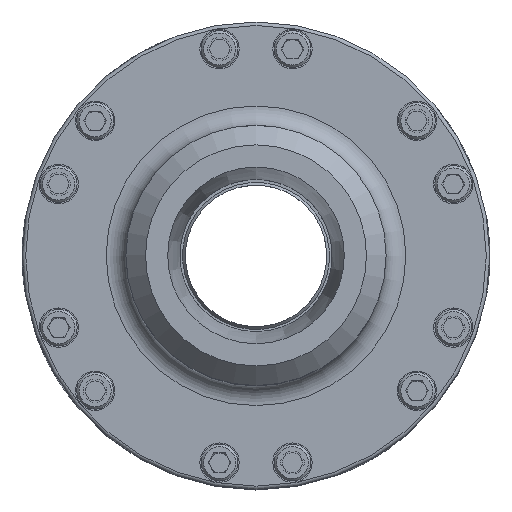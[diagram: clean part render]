
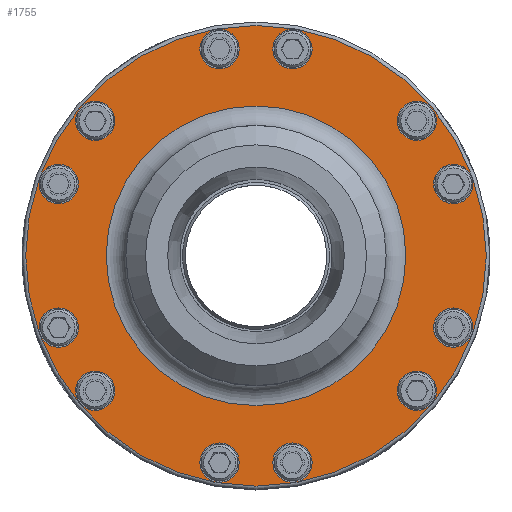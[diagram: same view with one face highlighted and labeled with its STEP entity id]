
A CAD part, top view. The second image highlights one B-rep face of the part: STEP entity #1755.
In plain terms, the highlighted planar face has unit normal (0, 0, 1).
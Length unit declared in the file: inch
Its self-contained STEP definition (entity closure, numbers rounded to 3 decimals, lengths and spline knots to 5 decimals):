
#63 = FACE_BOUND ( 'NONE', #10007, .T. ) ;
#91 = DIRECTION ( 'NONE',  ( 0., -1., 0. ) ) ;
#254 = EDGE_CURVE ( 'NONE', #526, #526, #12032, .T. ) ;
#268 = EDGE_LOOP ( 'NONE', ( #2053 ) ) ;
#382 = FACE_BOUND ( 'NONE', #13236, .T. ) ;
#526 = VERTEX_POINT ( 'NONE', #546 ) ;
#546 = CARTESIAN_POINT ( 'NONE',  ( 0.4639, 2.38091, 2.753 ) ) ;
#572 = DIRECTION ( 'NONE',  ( 0., 0., 1. ) ) ;
#672 = DIRECTION ( 'NONE',  ( 0., 0., 1. ) ) ;
#735 = DIRECTION ( 'NONE',  ( 0., -1., 0. ) ) ;
#801 = CIRCLE ( 'NONE', #2886, 2.93 ) ;
#849 = EDGE_LOOP ( 'NONE', ( #1204 ) ) ;
#852 = CARTESIAN_POINT ( 'NONE',  ( 0., -2.93, 2.753 ) ) ;
#1117 = CIRCLE ( 'NONE', #3226, 0.25 ) ;
#1204 = ORIENTED_EDGE ( 'NONE', *, *, #9022, .F. ) ;
#1471 = VERTEX_POINT ( 'NONE', #2213 ) ;
#1738 = AXIS2_PLACEMENT_3D ( 'NONE', #1772, #9468, #2869 ) ;
#1755 = ADVANCED_FACE ( 'NONE', ( #6213, #11734, #12096, #3327, #382, #8828, #5878, #2959, #63, #11396, #8473, #5548, #2614, #13989 ), #14124, .T. ) ;
#1767 = DIRECTION ( 'NONE',  ( 0., 0., 1. ) ) ;
#1772 = CARTESIAN_POINT ( 'NONE',  ( -2.04649, -1.71721, 2.753 ) ) ;
#1795 = CIRCLE ( 'NONE', #13299, 0.25 ) ;
#1866 = CARTESIAN_POINT ( 'NONE',  ( 2.51039, -1.16371, 2.753 ) ) ;
#1891 = ORIENTED_EDGE ( 'NONE', *, *, #6765, .F. ) ;
#1950 = ORIENTED_EDGE ( 'NONE', *, *, #10876, .F. ) ;
#2053 = ORIENTED_EDGE ( 'NONE', *, *, #9983, .F. ) ;
#2083 = EDGE_LOOP ( 'NONE', ( #8944 ) ) ;
#2213 = CARTESIAN_POINT ( 'NONE',  ( -2.51039, -1.16371, 2.753 ) ) ;
#2271 = CARTESIAN_POINT ( 'NONE',  ( -2.04649, 1.46721, 2.753 ) ) ;
#2320 = AXIS2_PLACEMENT_3D ( 'NONE', #4057, #11775, #5173 ) ;
#2334 = DIRECTION ( 'NONE',  ( 0., 0., -1. ) ) ;
#2418 = EDGE_LOOP ( 'NONE', ( #11815 ) ) ;
#2539 = EDGE_LOOP ( 'NONE', ( #4429 ) ) ;
#2614 = FACE_BOUND ( 'NONE', #9337, .T. ) ;
#2625 = AXIS2_PLACEMENT_3D ( 'NONE', #11536, #4908, #12632 ) ;
#2769 = EDGE_LOOP ( 'NONE', ( #1950 ) ) ;
#2828 = CIRCLE ( 'NONE', #6214, 1.906 ) ;
#2869 = DIRECTION ( 'NONE',  ( 0., -1., 0. ) ) ;
#2886 = AXIS2_PLACEMENT_3D ( 'NONE', #5376, #13115, #6481 ) ;
#2959 = FACE_BOUND ( 'NONE', #13051, .T. ) ;
#2960 = CARTESIAN_POINT ( 'NONE',  ( 2.51039, -0.91371, 2.753 ) ) ;
#3222 = CIRCLE ( 'NONE', #2625, 0.25 ) ;
#3226 = AXIS2_PLACEMENT_3D ( 'NONE', #10624, #4000, #11729 ) ;
#3327 = FACE_BOUND ( 'NONE', #6664, .T. ) ;
#3425 = EDGE_CURVE ( 'NONE', #6107, #6107, #9107, .T. ) ;
#3620 = CIRCLE ( 'NONE', #12281, 0.25 ) ;
#3760 = CARTESIAN_POINT ( 'NONE',  ( -2.51039, -0.91371, 2.753 ) ) ;
#3774 = ORIENTED_EDGE ( 'NONE', *, *, #254, .F. ) ;
#3846 = VERTEX_POINT ( 'NONE', #4246 ) ;
#3930 = CIRCLE ( 'NONE', #6236, 0.25 ) ;
#3994 = CIRCLE ( 'NONE', #1738, 0.25 ) ;
#4000 = DIRECTION ( 'NONE',  ( 0., 0., 1. ) ) ;
#4025 = DIRECTION ( 'NONE',  ( 0., -1., 0. ) ) ;
#4057 = CARTESIAN_POINT ( 'NONE',  ( -2.04649, 1.71721, 2.753 ) ) ;
#4153 = CARTESIAN_POINT ( 'NONE',  ( 0.4639, -2.88091, 2.753 ) ) ;
#4219 = CARTESIAN_POINT ( 'NONE',  ( 2.975, 0., 2.753 ) ) ;
#4246 = CARTESIAN_POINT ( 'NONE',  ( -0.4639, 2.38091, 2.753 ) ) ;
#4305 = CARTESIAN_POINT ( 'NONE',  ( -0.4639, -2.88091, 2.753 ) ) ;
#4350 = CARTESIAN_POINT ( 'NONE',  ( -2.04649, -1.96721, 2.753 ) ) ;
#4429 = ORIENTED_EDGE ( 'NONE', *, *, #3425, .F. ) ;
#4600 = DIRECTION ( 'NONE',  ( 0., 0., 1. ) ) ;
#4604 = EDGE_LOOP ( 'NONE', ( #3774 ) ) ;
#4692 = EDGE_CURVE ( 'NONE', #10604, #10604, #3930, .T. ) ;
#4856 = DIRECTION ( 'NONE',  ( 0., -1., 0. ) ) ;
#4908 = DIRECTION ( 'NONE',  ( 0., 0., 1. ) ) ;
#4911 = AXIS2_PLACEMENT_3D ( 'NONE', #4219, #14172, #7577 ) ;
#5169 = ORIENTED_EDGE ( 'NONE', *, *, #4692, .F. ) ;
#5173 = DIRECTION ( 'NONE',  ( 0., -1., 0. ) ) ;
#5376 = CARTESIAN_POINT ( 'NONE',  ( 0., 0., 2.753 ) ) ;
#5378 = AXIS2_PLACEMENT_3D ( 'NONE', #9541, #8440, #735 ) ;
#5520 = AXIS2_PLACEMENT_3D ( 'NONE', #11226, #4600, #12314 ) ;
#5548 = FACE_BOUND ( 'NONE', #4604, .T. ) ;
#5601 = CIRCLE ( 'NONE', #5520, 0.25 ) ;
#5704 = ORIENTED_EDGE ( 'NONE', *, *, #13978, .F. ) ;
#5878 = FACE_BOUND ( 'NONE', #7582, .T. ) ;
#6107 = VERTEX_POINT ( 'NONE', #6176 ) ;
#6176 = CARTESIAN_POINT ( 'NONE',  ( 2.04649, 1.46721, 2.753 ) ) ;
#6213 = FACE_OUTER_BOUND ( 'NONE', #2083, .T. ) ;
#6214 = AXIS2_PLACEMENT_3D ( 'NONE', #8928, #2334, #10043 ) ;
#6236 = AXIS2_PLACEMENT_3D ( 'NONE', #2960, #10660, #4025 ) ;
#6266 = VERTEX_POINT ( 'NONE', #2271 ) ;
#6470 = EDGE_CURVE ( 'NONE', #11800, #11800, #801, .T. ) ;
#6481 = DIRECTION ( 'NONE',  ( 0., -1., 0. ) ) ;
#6526 = ORIENTED_EDGE ( 'NONE', *, *, #7364, .F. ) ;
#6662 = DIRECTION ( 'NONE',  ( 0., 0., 1. ) ) ;
#6664 = EDGE_LOOP ( 'NONE', ( #1891 ) ) ;
#6765 = EDGE_CURVE ( 'NONE', #8539, #8539, #3222, .T. ) ;
#7171 = CARTESIAN_POINT ( 'NONE',  ( 2.51039, 0.91371, 2.753 ) ) ;
#7258 = CARTESIAN_POINT ( 'NONE',  ( 2.04649, -1.71721, 2.753 ) ) ;
#7334 = CIRCLE ( 'NONE', #9557, 0.25 ) ;
#7364 = EDGE_CURVE ( 'NONE', #8177, #8177, #12483, .T. ) ;
#7577 = DIRECTION ( 'NONE',  ( 0., -1., 0. ) ) ;
#7582 = EDGE_LOOP ( 'NONE', ( #10968 ) ) ;
#7695 = EDGE_CURVE ( 'NONE', #7856, #7856, #2828, .T. ) ;
#7833 = CARTESIAN_POINT ( 'NONE',  ( 2.04649, -1.96721, 2.753 ) ) ;
#7856 = VERTEX_POINT ( 'NONE', #9714 ) ;
#8079 = AXIS2_PLACEMENT_3D ( 'NONE', #13286, #6662, #91 ) ;
#8177 = VERTEX_POINT ( 'NONE', #14091 ) ;
#8288 = DIRECTION ( 'NONE',  ( 0., -1., 0. ) ) ;
#8347 = CARTESIAN_POINT ( 'NONE',  ( -0.4639, 2.63091, 2.753 ) ) ;
#8369 = DIRECTION ( 'NONE',  ( 0., -1., 0. ) ) ;
#8437 = ORIENTED_EDGE ( 'NONE', *, *, #11382, .F. ) ;
#8440 = DIRECTION ( 'NONE',  ( 0., 0., 1. ) ) ;
#8473 = FACE_BOUND ( 'NONE', #11816, .T. ) ;
#8539 = VERTEX_POINT ( 'NONE', #4153 ) ;
#8713 = VERTEX_POINT ( 'NONE', #4305 ) ;
#8828 = FACE_BOUND ( 'NONE', #2539, .T. ) ;
#8928 = CARTESIAN_POINT ( 'NONE',  ( 0., 0., 2.753 ) ) ;
#8944 = ORIENTED_EDGE ( 'NONE', *, *, #6470, .T. ) ;
#9022 = EDGE_CURVE ( 'NONE', #3846, #3846, #7334, .T. ) ;
#9107 = CIRCLE ( 'NONE', #8079, 0.25 ) ;
#9337 = EDGE_LOOP ( 'NONE', ( #5704 ) ) ;
#9464 = DIRECTION ( 'NONE',  ( 0., -1., 0. ) ) ;
#9468 = DIRECTION ( 'NONE',  ( 0., 0., 1. ) ) ;
#9541 = CARTESIAN_POINT ( 'NONE',  ( 0.4639, 2.63091, 2.753 ) ) ;
#9557 = AXIS2_PLACEMENT_3D ( 'NONE', #8347, #1767, #9464 ) ;
#9714 = CARTESIAN_POINT ( 'NONE',  ( 0., 1.906, 2.753 ) ) ;
#9983 = EDGE_CURVE ( 'NONE', #8713, #8713, #5601, .T. ) ;
#10007 = EDGE_LOOP ( 'NONE', ( #6526 ) ) ;
#10043 = DIRECTION ( 'NONE',  ( 0., 1., 0. ) ) ;
#10372 = CIRCLE ( 'NONE', #2320, 0.25 ) ;
#10410 = VERTEX_POINT ( 'NONE', #7833 ) ;
#10591 = VERTEX_POINT ( 'NONE', #12071 ) ;
#10604 = VERTEX_POINT ( 'NONE', #1866 ) ;
#10624 = CARTESIAN_POINT ( 'NONE',  ( -2.51039, 0.91371, 2.753 ) ) ;
#10660 = DIRECTION ( 'NONE',  ( 0., 0., 1. ) ) ;
#10842 = EDGE_CURVE ( 'NONE', #13524, #13524, #3994, .T. ) ;
#10876 = EDGE_CURVE ( 'NONE', #10591, #10591, #1117, .T. ) ;
#10968 = ORIENTED_EDGE ( 'NONE', *, *, #12662, .F. ) ;
#11226 = CARTESIAN_POINT ( 'NONE',  ( -0.4639, -2.63091, 2.753 ) ) ;
#11382 = EDGE_CURVE ( 'NONE', #1471, #1471, #1795, .T. ) ;
#11396 = FACE_BOUND ( 'NONE', #849, .T. ) ;
#11470 = DIRECTION ( 'NONE',  ( 0., 0., 1. ) ) ;
#11536 = CARTESIAN_POINT ( 'NONE',  ( 0.4639, -2.63091, 2.753 ) ) ;
#11729 = DIRECTION ( 'NONE',  ( 0., -1., 0. ) ) ;
#11734 = FACE_BOUND ( 'NONE', #2769, .T. ) ;
#11775 = DIRECTION ( 'NONE',  ( 0., 0., 1. ) ) ;
#11800 = VERTEX_POINT ( 'NONE', #852 ) ;
#11815 = ORIENTED_EDGE ( 'NONE', *, *, #10842, .F. ) ;
#11816 = EDGE_LOOP ( 'NONE', ( #12848 ) ) ;
#11934 = AXIS2_PLACEMENT_3D ( 'NONE', #7171, #572, #8288 ) ;
#12032 = CIRCLE ( 'NONE', #5378, 0.25 ) ;
#12071 = CARTESIAN_POINT ( 'NONE',  ( -2.51039, 0.66371, 2.753 ) ) ;
#12096 = FACE_BOUND ( 'NONE', #2418, .T. ) ;
#12281 = AXIS2_PLACEMENT_3D ( 'NONE', #7258, #672, #8369 ) ;
#12314 = DIRECTION ( 'NONE',  ( 0., -1., 0. ) ) ;
#12483 = CIRCLE ( 'NONE', #11934, 0.25 ) ;
#12632 = DIRECTION ( 'NONE',  ( 0., -1., 0. ) ) ;
#12662 = EDGE_CURVE ( 'NONE', #6266, #6266, #10372, .T. ) ;
#12848 = ORIENTED_EDGE ( 'NONE', *, *, #7695, .T. ) ;
#13051 = EDGE_LOOP ( 'NONE', ( #8437 ) ) ;
#13115 = DIRECTION ( 'NONE',  ( 0., 0., 1. ) ) ;
#13236 = EDGE_LOOP ( 'NONE', ( #5169 ) ) ;
#13286 = CARTESIAN_POINT ( 'NONE',  ( 2.04649, 1.71721, 2.753 ) ) ;
#13299 = AXIS2_PLACEMENT_3D ( 'NONE', #3760, #11470, #4856 ) ;
#13524 = VERTEX_POINT ( 'NONE', #4350 ) ;
#13978 = EDGE_CURVE ( 'NONE', #10410, #10410, #3620, .T. ) ;
#13989 = FACE_BOUND ( 'NONE', #268, .T. ) ;
#14091 = CARTESIAN_POINT ( 'NONE',  ( 2.51039, 0.66371, 2.753 ) ) ;
#14124 = PLANE ( 'NONE',  #4911 ) ;
#14172 = DIRECTION ( 'NONE',  ( 0., 0., 1. ) ) ;
